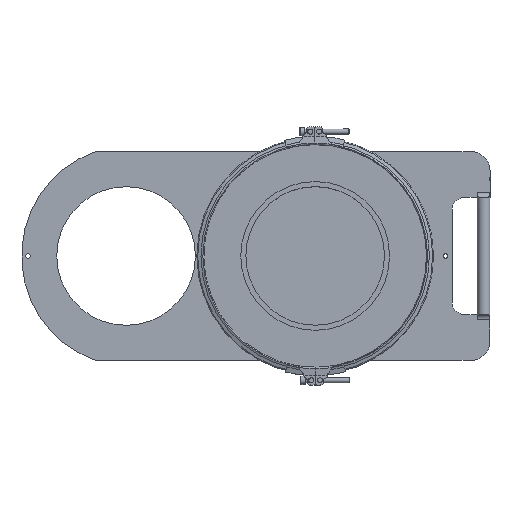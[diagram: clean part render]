
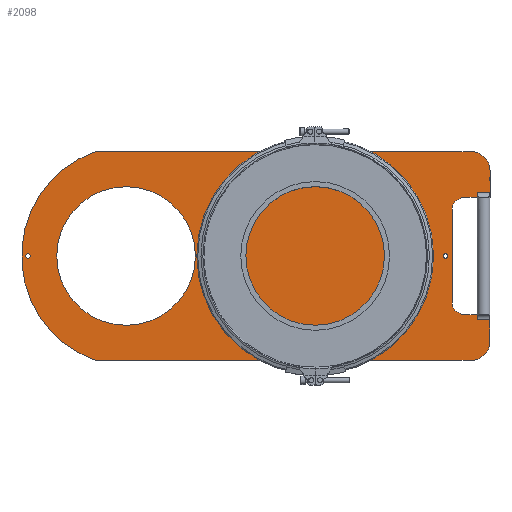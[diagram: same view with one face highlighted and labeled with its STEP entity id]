
A CAD part, top view. The second image highlights one B-rep face of the part: STEP entity #2098.
In plain terms, the highlighted planar face has unit normal (0, 0, 1) as drawn and (0, 0, -1) by its records, which use the part's own axes.
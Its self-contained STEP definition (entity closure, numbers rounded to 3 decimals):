
#1034=CARTESIAN_POINT('',(-726.5,165.,0.0));
#1035=VERTEX_POINT('',#1034);
#1036=CARTESIAN_POINT('',(-730.,165.,0.0));
#1037=DIRECTION('',(0.0,0.0,1.0));
#1038=DIRECTION('',(1.0,0.0,0.0));
#1039=AXIS2_PLACEMENT_3D('',#1036,#1037,#1038);
#1040=CIRCLE('',#1039,3.5);
#1041=EDGE_CURVE('',#1035,#1035,#1040,.T.);
#1083=CARTESIAN_POINT('',(-66.5,165.,0.0));
#1084=VERTEX_POINT('',#1083);
#1085=CARTESIAN_POINT('',(-70.,165.,0.0));
#1086=DIRECTION('',(0.0,0.0,1.0));
#1087=DIRECTION('',(1.0,0.0,0.0));
#1088=AXIS2_PLACEMENT_3D('',#1085,#1086,#1087);
#1089=CIRCLE('',#1088,3.5);
#1090=EDGE_CURVE('',#1084,#1084,#1089,.T.);
#1100=CARTESIAN_POINT('',(-0.113,64.5,0.0));
#1101=VERTEX_POINT('',#1100);
#1121=CARTESIAN_POINT('',(-19.887,64.5,0.0));
#1122=VERTEX_POINT('',#1121);
#1123=CARTESIAN_POINT('',(-0.113,64.5,0.0));
#1124=DIRECTION('',(-1.0,0.0,0.0));
#1125=VECTOR('',#1124,19.774);
#1126=LINE('',#1123,#1125);
#1127=EDGE_CURVE('',#1101,#1122,#1126,.T.);
#1178=CARTESIAN_POINT('',(-19.887,265.5,0.0));
#1179=VERTEX_POINT('',#1178);
#1199=CARTESIAN_POINT('',(-0.113,265.5,0.0));
#1200=VERTEX_POINT('',#1199);
#1201=CARTESIAN_POINT('',(-19.887,265.5,0.0));
#1202=DIRECTION('',(1.0,0.0,0.0));
#1203=VECTOR('',#1202,19.774);
#1204=LINE('',#1201,#1203);
#1205=EDGE_CURVE('',#1179,#1200,#1204,.T.);
#1584=CARTESIAN_POINT('',(-0.113,72.5,0.0));
#1585=VERTEX_POINT('',#1584);
#1595=CARTESIAN_POINT('',(-0.113,64.5,0.0));
#1596=DIRECTION('',(0.0,1.0,0.0));
#1597=VECTOR('',#1596,8.);
#1598=LINE('',#1595,#1597);
#1599=EDGE_CURVE('',#1101,#1585,#1598,.T.);
#1604=CARTESIAN_POINT('',(-19.887,72.5,0.0));
#1605=VERTEX_POINT('',#1604);
#1606=CARTESIAN_POINT('',(-19.887,72.5,0.0));
#1607=DIRECTION('',(0.0,-1.0,0.0));
#1608=VECTOR('',#1607,8.);
#1609=LINE('',#1606,#1608);
#1610=EDGE_CURVE('',#1605,#1122,#1609,.T.);
#1635=CARTESIAN_POINT('',(-0.113,257.5,0.0));
#1636=VERTEX_POINT('',#1635);
#1656=CARTESIAN_POINT('',(-19.887,257.5,0.0));
#1657=VERTEX_POINT('',#1656);
#1665=CARTESIAN_POINT('',(-19.887,265.5,0.0));
#1666=DIRECTION('',(0.0,-1.0,0.0));
#1667=VECTOR('',#1666,8.0);
#1668=LINE('',#1665,#1667);
#1669=EDGE_CURVE('',#1179,#1657,#1668,.T.);
#1674=CARTESIAN_POINT('',(-0.113,257.5,0.0));
#1675=DIRECTION('',(0.0,1.0,0.0));
#1676=VECTOR('',#1675,8.0);
#1677=LINE('',#1674,#1676);
#1678=EDGE_CURVE('',#1636,#1200,#1677,.T.);
#1705=CARTESIAN_POINT('',(0.,257.5,0.0));
#1706=VERTEX_POINT('',#1705);
#1707=CARTESIAN_POINT('',(0.,257.5,0.0));
#1708=DIRECTION('',(-1.0,0.0,0.0));
#1709=VECTOR('',#1708,0.113);
#1710=LINE('',#1707,#1709);
#1711=EDGE_CURVE('',#1706,#1636,#1710,.T.);
#1729=CARTESIAN_POINT('',(-40.,257.5,0.0));
#1730=VERTEX_POINT('',#1729);
#1737=CARTESIAN_POINT('',(-19.887,257.5,0.0));
#1738=DIRECTION('',(-1.0,0.0,0.0));
#1739=VECTOR('',#1738,20.113);
#1740=LINE('',#1737,#1739);
#1741=EDGE_CURVE('',#1657,#1730,#1740,.T.);
#1752=CARTESIAN_POINT('',(0.,72.5,0.0));
#1753=VERTEX_POINT('',#1752);
#1760=CARTESIAN_POINT('',(-0.113,72.5,0.0));
#1761=DIRECTION('',(1.0,0.0,0.0));
#1762=VECTOR('',#1761,0.113);
#1763=LINE('',#1760,#1762);
#1764=EDGE_CURVE('',#1585,#1753,#1763,.T.);
#1791=CARTESIAN_POINT('',(-40.,72.5,0.0));
#1792=VERTEX_POINT('',#1791);
#1793=CARTESIAN_POINT('',(-40.,72.5,0.0));
#1794=DIRECTION('',(1.0,0.0,0.0));
#1795=VECTOR('',#1794,20.113);
#1796=LINE('',#1793,#1795);
#1797=EDGE_CURVE('',#1792,#1605,#1796,.T.);
#1817=CARTESIAN_POINT('',(-465.5,165.0,0.0));
#1818=VERTEX_POINT('',#1817);
#1819=CARTESIAN_POINT('',(-575.,165.0,0.0));
#1820=DIRECTION('',(0.0,0.0,1.0));
#1821=DIRECTION('',(-1.0,0.0,0.0));
#1822=AXIS2_PLACEMENT_3D('',#1819,#1820,#1821);
#1823=CIRCLE('',#1822,109.5);
#1824=EDGE_CURVE('',#1818,#1818,#1823,.T.);
#1835=CARTESIAN_POINT('',(0.,300.0,0.0));
#1836=VERTEX_POINT('',#1835);
#1843=CARTESIAN_POINT('',(-30.,330.0,0.0));
#1844=VERTEX_POINT('',#1843);
#1845=CARTESIAN_POINT('',(-30.,300.0,0.0));
#1846=DIRECTION('',(0.0,0.0,-1.0));
#1847=DIRECTION('',(-1.0,0.0,0.0));
#1848=AXIS2_PLACEMENT_3D('',#1845,#1846,#1847);
#1849=CIRCLE('',#1848,30.0);
#1850=EDGE_CURVE('',#1844,#1836,#1849,.T.);
#1869=CARTESIAN_POINT('',(0.,300.0,0.0));
#1870=DIRECTION('',(0.0,-1.0,0.0));
#1871=VECTOR('',#1870,42.5);
#1872=LINE('',#1869,#1871);
#1873=EDGE_CURVE('',#1836,#1706,#1872,.T.);
#1885=CARTESIAN_POINT('',(-60.0,237.5,0.0));
#1886=VERTEX_POINT('',#1885);
#1893=CARTESIAN_POINT('',(-40.,237.5,0.0));
#1894=DIRECTION('',(0.0,0.0,1.0));
#1895=DIRECTION('',(0.0,1.0,0.0));
#1896=AXIS2_PLACEMENT_3D('',#1893,#1894,#1895);
#1897=CIRCLE('',#1896,20.0);
#1898=EDGE_CURVE('',#1730,#1886,#1897,.T.);
#1910=CARTESIAN_POINT('',(-60.,92.5,0.0));
#1911=VERTEX_POINT('',#1910);
#1918=CARTESIAN_POINT('',(-60.0,237.5,0.0));
#1919=DIRECTION('',(0.0,-1.0,0.0));
#1920=VECTOR('',#1919,145.);
#1921=LINE('',#1918,#1920);
#1922=EDGE_CURVE('',#1886,#1911,#1921,.T.);
#1935=CARTESIAN_POINT('',(-40.,92.5,0.0));
#1936=DIRECTION('',(0.0,0.0,1.0));
#1937=DIRECTION('',(-1.0,0.0,0.0));
#1938=AXIS2_PLACEMENT_3D('',#1935,#1936,#1937);
#1939=CIRCLE('',#1938,20.0);
#1940=EDGE_CURVE('',#1911,#1792,#1939,.T.);
#1952=CARTESIAN_POINT('',(0.,30.,0.0));
#1953=VERTEX_POINT('',#1952);
#1960=CARTESIAN_POINT('',(0.,72.5,0.0));
#1961=DIRECTION('',(0.0,-1.0,0.0));
#1962=VECTOR('',#1961,42.5);
#1963=LINE('',#1960,#1962);
#1964=EDGE_CURVE('',#1753,#1953,#1963,.T.);
#1977=CARTESIAN_POINT('',(-30.,0.0,0.0));
#1978=VERTEX_POINT('',#1977);
#1985=CARTESIAN_POINT('',(-30.,30.0,0.0));
#1986=DIRECTION('',(0.0,0.0,-1.0));
#1987=DIRECTION('',(0.0,1.0,0.0));
#1988=AXIS2_PLACEMENT_3D('',#1985,#1986,#1987);
#1989=CIRCLE('',#1988,30.0);
#1990=EDGE_CURVE('',#1953,#1978,#1989,.T.);
#2002=CARTESIAN_POINT('',(-623.31,0.,0.0));
#2003=VERTEX_POINT('',#2002);
#2010=CARTESIAN_POINT('',(-30.,0.0,0.0));
#2011=DIRECTION('',(-1.0,0.0,0.0));
#2012=VECTOR('',#2011,593.31);
#2013=LINE('',#2010,#2012);
#2014=EDGE_CURVE('',#1978,#2003,#2013,.T.);
#2026=CARTESIAN_POINT('',(-623.31,330.0,0.0));
#2027=VERTEX_POINT('',#2026);
#2034=CARTESIAN_POINT('',(-565.,165.,0.0));
#2035=DIRECTION('',(0.0,0.0,-1.0));
#2036=DIRECTION('',(0.333,-0.943,0.0));
#2037=AXIS2_PLACEMENT_3D('',#2034,#2035,#2036);
#2038=CIRCLE('',#2037,175.0);
#2039=EDGE_CURVE('',#2003,#2027,#2038,.T.);
#2052=CARTESIAN_POINT('',(-623.31,330.,0.0));
#2053=DIRECTION('',(1.0,0.0,0.0));
#2054=VECTOR('',#2053,593.31);
#2055=LINE('',#2052,#2054);
#2056=EDGE_CURVE('',#2027,#1844,#2055,.T.);
#2062=CARTESIAN_POINT('',(-335.916,165.0,0.0));
#2063=DIRECTION('',(0.0,0.0,1.0));
#2064=DIRECTION('',(1.0,0.0,0.0));
#2065=AXIS2_PLACEMENT_3D('',#2062,#2063,#2064);
#2066=PLANE('',#2065);
#2067=ORIENTED_EDGE('',*,*,#1599,.T.);
#2068=ORIENTED_EDGE('',*,*,#1764,.T.);
#2069=ORIENTED_EDGE('',*,*,#1964,.T.);
#2070=ORIENTED_EDGE('',*,*,#1990,.T.);
#2071=ORIENTED_EDGE('',*,*,#2014,.T.);
#2072=ORIENTED_EDGE('',*,*,#2039,.T.);
#2073=ORIENTED_EDGE('',*,*,#2056,.T.);
#2074=ORIENTED_EDGE('',*,*,#1850,.T.);
#2075=ORIENTED_EDGE('',*,*,#1873,.T.);
#2076=ORIENTED_EDGE('',*,*,#1711,.T.);
#2077=ORIENTED_EDGE('',*,*,#1678,.T.);
#2078=ORIENTED_EDGE('',*,*,#1205,.F.);
#2079=ORIENTED_EDGE('',*,*,#1669,.T.);
#2080=ORIENTED_EDGE('',*,*,#1741,.T.);
#2081=ORIENTED_EDGE('',*,*,#1898,.T.);
#2082=ORIENTED_EDGE('',*,*,#1922,.T.);
#2083=ORIENTED_EDGE('',*,*,#1940,.T.);
#2084=ORIENTED_EDGE('',*,*,#1797,.T.);
#2085=ORIENTED_EDGE('',*,*,#1610,.T.);
#2086=ORIENTED_EDGE('',*,*,#1127,.F.);
#2087=EDGE_LOOP('',(#2067,#2068,#2069,#2070,#2071,#2072,#2073,#2074,#2075,#2076,#2077,#2078,#2079,#2080,#2081,#2082,#2083,#2084,#2085,#2086));
#2088=FACE_OUTER_BOUND('',#2087,.T.);
#2089=ORIENTED_EDGE('',*,*,#1041,.T.);
#2090=EDGE_LOOP('',(#2089));
#2091=FACE_BOUND('',#2090,.T.);
#2092=ORIENTED_EDGE('',*,*,#1090,.T.);
#2093=EDGE_LOOP('',(#2092));
#2094=FACE_BOUND('',#2093,.T.);
#2095=ORIENTED_EDGE('',*,*,#1824,.T.);
#2096=EDGE_LOOP('',(#2095));
#2097=FACE_BOUND('',#2096,.T.);
#2098=ADVANCED_FACE('',(#2088,#2091,#2094,#2097),#2066,.F.);
